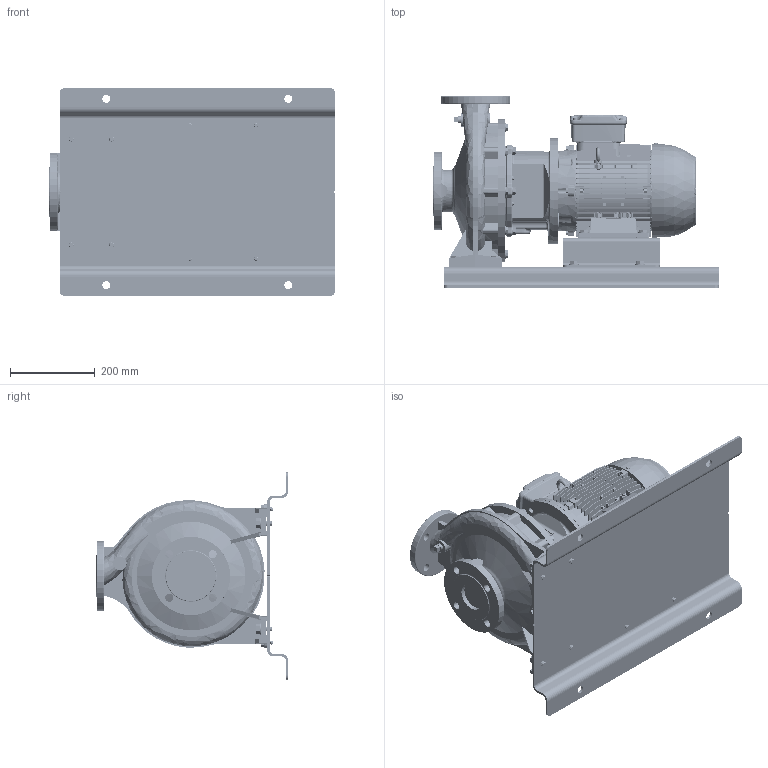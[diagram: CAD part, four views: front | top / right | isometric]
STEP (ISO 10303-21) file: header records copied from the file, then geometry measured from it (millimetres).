
FILE_DESCRIPTION (( 'STEP AP214' ), '1' );
FILE_NAME ('GSD4 50-250_4.0_(112M)_W21_BP.STEP', '2024-08-12T05:50:32', ( '' ), ( '' ), 'SwSTEP 2.0', 'SolidWorks 2019', '' );
FILE_SCHEMA (( 'AUTOMOTIVE_DESIGN' ));
Length unit declared in the file: millimetre
Products named in the file (10): Parametric bolt_SFT-A249B; Parametric bolt_SFT-A253B; GSD4 50-250_4.0_(112M)_W21_BP; 140_178 x 68 BP - 271472191; Parametric bolt_SFT-A299B; Parametric Flat Washer_M10; 50-250-100L_______; N5S5 GSDA-554 F1-1832917-00; Parametric Flat Washer_M12; 112M ALIE3_W21T_B35
Assembly tree (28 placements, depth 2):
  GSD4 50-250_4.0_(112M)_W21_BP
    50-250-100L_______
    112M ALIE3_W21T_B35
    N5S5 GSDA-554 F1-1832917-00
    140_178 x 68 BP - 271472191
    Parametric bolt_SFT-A299B  x4
    Parametric bolt_SFT-A249B  x4
    Parametric bolt_SFT-A253B  x4
    Parametric Flat Washer_M10  x8
    Parametric Flat Washer_M12  x4
Bounding box: 675 x 455 x 490 mm (x, y, z)
Volume: 25426796.4 mm3; surface area: 2633154.6 mm2
Topology: 38 solids, 41 shells, 5430 faces, 14433 edges, 9371 vertices
Faces by surface type: plane 2776, cylinder 1341, bspline 504, cone 423, torus 375, sphere 11
Entity records: 208942 total; most frequent: CARTESIAN_POINT 91242, ORIENTED_EDGE 26322, DIRECTION 21532, EDGE_CURVE 13161, VERTEX_POINT 8555, LINE 7294, VECTOR 7294, AXIS2_PLACEMENT_3D 7119
